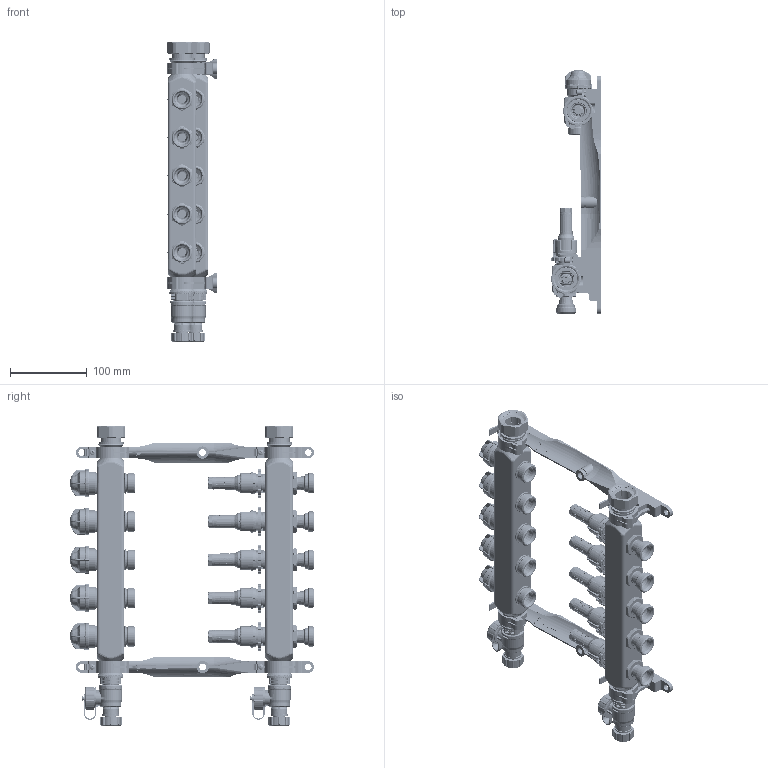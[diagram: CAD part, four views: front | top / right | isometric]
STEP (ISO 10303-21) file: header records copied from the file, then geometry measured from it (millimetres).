
FILE_DESCRIPTION (( 'STEP AP214' ), '1' );
FILE_NAME ('86405.STEP', '2023-10-24T08:32:58', ( '' ), ( '' ), 'SwSTEP 2.0', 'SolidWorks 2022', '' );
FILE_SCHEMA (( 'AUTOMOTIVE_DESIGN' ));
Length unit declared in the file: millimetre
Products named in the file (54): O-RING _X_F817x2,0 EPDM_801 000 0269; Lasche unten_2; 05 01 000033_Verschlussdeckel G3_4 mit Zapfen_0; mid; 05 01000235_Einschraubk_X_F6rper G1_2; DFM 0,5-4 l_min G1_2 KST EK_05 01 00 01; 05 01 000945_Geh_X_E4use KFE G3_4 ohne Logoaufn.; O-RING_801 000 0177; Anschluss-Flach 3_4 Ni_011 030.115; 05 01 000035_Verschlussschraube; Wandhalter _X_F832_05 01 000265_2; Verteiler oben_Baugruppe_2; O-Ring _X_F818x2 EPDM_801 000 0177_2; Einschraubst. G3_4xG1_2x40mm vern._05 02 000007; Ventilk_X_F6rper M30x1,5 G1_2 AG Kst._05 01 000900; BEDRUCKUNG; Hubvtl. M30x1,5AGxG1_2 KST VT gelb_05 01 01 60_0; 05 01 000428_Handrad Caradesign schwarz DFM; bot; ISO 7049-ST3.5x25-C-H_Blechschrauben_0_4; Grundk_X_F6rper KFE-Hahn G3_4_05 01 000320_0; O-RING 21,82X3,53_801 000 0127; SCHEIBE_011 030.018; LAGER_05 01 000501; Lagerring _X_F826x2,4 EPDM 50_05 01 000501; LASCHE_2; 801 018 3002_O-Ring _X_F818,0x3,0mm EPDM_0_2; korp_end; T_X_DCLLE-FLACH_011 030.016; 801 000 0268_O-Ring _X_F86,0x2,10mm EPDM_0; 05 01 000037_Haltelasche f_X_FCr Endmodul_0; 801 000 0190_O-Ring _X_F89,0x2,0mm EPDM_0; 86405; SCHRAUBKAPPE BEDRUCKT_05 01 000227; 801 018 3200_O-Ring _X_F818,0x3,0mm EPDM 70_X_B15 IRHD perox; Anschlussnippel G1_2 - G3_4_Baugruppe; 05 01 00 16_Verschlussschraube, komplett_0; 801 018 3002_O-Ring _X_F818,0x3,0mm EPDM_0; ISO 7049-ST3.5x25-C-H_Blechschrauben_0_3; 05 01 02 16_KFE-Hahn G3_4 Kunststoff o. Logoaufnahme_0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
Assembly tree (83 placements, depth 6):
  86405
    korp_end  x4
    mid  x6
    LAGER_05 01 000501  x4
    Wandhalter _X_F832_05 01 000265_2  x2
      Lasche oben_2
        Lasche oben_2
        ISO 7049-ST3.5x25-C-H_Blechschrauben_0_3
      Lasche unten_2
        Lasche unten_2
        ISO 7049-ST3.5x25-C-H_Blechschrauben_0_4
      Wandhalter K_X_F6rper _X_F832_05 01 000265_2
    Anschluss-Flach 3_4 Ni_011 030.115  x2
      T_X_DCLLE-FLACH_011 030.016
      SCHEIBE_011 030.018
      O-RING 21,82X3,53_801 000 0127
      _X_DCberwurfmutter G1_05 00 350408
    DFM 0,5-4 l_min G1_2 KST EK_05 01 00 01  x5
      Bewegung_Baugruppe_2
        SCHRAUBKAPPE BEDRUCKT_05 01 000227
          BEDRUCKUNG
          SCHRAUBKAPPE_05 01 000227
      O-RING_801 000 0177
      Einstellring Verteiler, schwarz_05 01 000181
      05 01 000428_Handrad Caradesign schwarz DFM
      05 01000235_Einschraubk_X_F6rper G1_2
    Verteiler oben_Baugruppe_2  x2
      Lagerring _X_F826x2,4 EPDM 50_05 01 000501
      05 01 02 16_KFE-Hahn G3_4 Kunststoff o. Logoaufnahme_0
        801 018 3002_O-Ring _X_F818,0x3,0mm EPDM_0
        801 018 3002_O-Ring _X_F818,0x3,0mm EPDM_0_2
        05 01 00 16_Verschlussschraube, komplett_0
          801 000 0190_O-Ring _X_F89,0x2,0mm EPDM_0
          801 000 0268_O-Ring _X_F86,0x2,10mm EPDM_0
        801 000 0237_O-Ring _X_F821,0x3,0mm EPDM
        05 02 00 43_Verschlussdeckel G3_4 mit Lasche
          05 01 000037_Haltelasche f_X_FCr Endmodul_0
            LASCHE
            LASCHE_2
            A
          05 01 000033_Verschlussdeckel G3_4 mit Zapfen_0
          801 018 3200_O-Ring _X_F818,0x3,0mm EPDM 70_X_B15 IRHD perox
        05 01 000035_Verschlussschraube
        Grundk_X_F6rper KFE-Hahn G3_4_05 01 000320_0
        05 01 000945_Geh_X_E4use KFE G3_4 ohne Logoaufn.
    Hubvtl. M30x1,5AGxG1_2 KST VT gelb_05 01 01 60_0  x5
      Verschlussscheibe_05 01 000213_0
      Stellmutter M30x1,5 IG grau_05 01 000183
      O-RING _X_F817x2,0 EPDM_801 000 0269
      Ventilk_X_F6rper M30x1,5 G1_2 AG Kst._05 01 000900
    bot  x5
    Anschlussnippel G1_2 - G3_4_Baugruppe  x5
      Einschraubst. G3_4xG1_2x40mm vern._05 02 000007
      O-Ring _X_F818x2 EPDM_801 000 0177_2
Bounding box: 65.98 x 318.7 x 391.22 mm (x, y, z)
Volume: 572637.6 mm3; surface area: 557396.8 mm2
Topology: 445 solids, 450 shells, 14853 faces, 38890 edges, 25066 vertices
Faces by surface type: plane 6312, cylinder 3964, cone 2620, bspline 1907, torus 50
Entity records: 214767 total; most frequent: CARTESIAN_POINT 82679, ORIENTED_EDGE 20864, DIRECTION 18214, EDGE_CURVE 10432, AXIS2_PLACEMENT_3D 7075, VERTEX_POINT 6744, EDGE_LOOP 4184, LINE 4064
